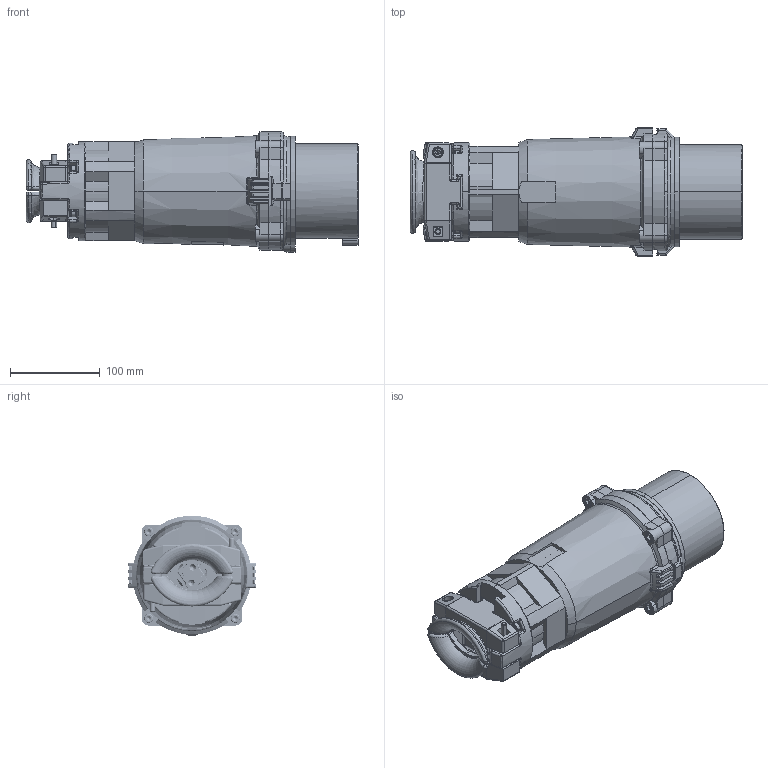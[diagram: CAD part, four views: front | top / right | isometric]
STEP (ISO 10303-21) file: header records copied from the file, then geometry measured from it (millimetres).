
FILE_DESCRIPTION((''),'2;1');
FILE_NAME('MC-S4_C-LINE_ASM','2019-08-22T09:46:39',('schlabachr'),('MENNEKES'),'CREO PARAMETRIC BY PTC INC, 2018260','CREO PARAMETRIC BY PTC INC, 2018260','');
FILE_SCHEMA(('AUTOMOTIVE_DESIGN { 1 0 10303 214 1 1 1 1 }'));
Length unit declared in the file: millimetre
Products named in the file (37): D_12778; SICHERUNGSSCHEIBE_SCHNORR_M5; D_12768; D_12959; O-RING_120_2X3_53; D_13698; D_13701; B_13701_ASM; D_13706; D_13699; SICHERUNGSSCHEIBE_SCHNORR_M6; D_13703; D_13700; SOCKET_HEAD_CAP_SCREW_DIN-R_S1_; D_13702; D_13705; 35512_FR_ZEICHNUNG0_ASM; D_12766; D_12756; SOCKET_SET_SCREW_CUP_POIN-35710; SOCKET_SET_SCREW_CUP_POIN-70426; D_13568; B_13567_ASM; DIN_7984_-_M6_X_12_TUFLOK_FLECK; D_12755; SOCKET_HEAD_CAP_SCREW_DIN-R_S_D; D_31719; D_12765; D_12751; D_03866; ZYL_SCHR_M_KL_KOPF_M4X8; B_12751_ASM; D_11694; D_12764; B_13541_ASM; B_12812_KLEIN_ASM; MC-S4_C-LINE_ASM
Assembly tree (69 placements, depth 5):
  MC-S4_C-LINE_ASM
    B_12812_KLEIN_ASM
      D_12778  x4
      SICHERUNGSSCHEIBE_SCHNORR_M5  x4
      D_12768
      D_12959
      O-RING_120_2X3_53
      B_13701_ASM
        D_13698  x4
        D_13701
      35512_FR_ZEICHNUNG0_ASM
        D_13706  x4
        D_13699
        SICHERUNGSSCHEIBE_SCHNORR_M6  x6
        D_13703
        D_13700  x2
        SOCKET_HEAD_CAP_SCREW_DIN-R_S1_  x2
        D_13702  x2
        D_13705
      B_13541_ASM
        D_12766
        D_12756
        SICHERUNGSSCHEIBE_SCHNORR_M5  x3
        B_13567_ASM  x4
          SOCKET_SET_SCREW_CUP_POIN-35710
          SOCKET_SET_SCREW_CUP_POIN-70426
          D_13568
        DIN_7984_-_M6_X_12_TUFLOK_FLECK
        D_12755  x3
        SOCKET_HEAD_CAP_SCREW_DIN-R_S_D  x3
        D_31719
        D_12765
        B_12751_ASM  x2
          D_12751
          D_03866
          ZYL_SCHR_M_KL_KOPF_M4X8
        D_11694
        D_12764
        SICHERUNGSSCHEIBE_SCHNORR_M6
Bounding box: 369 x 142.3 x 134 mm (x, y, z)
Volume: 1399771.4 mm3; surface area: 606996.3 mm2
Topology: 72 solids, 72 shells, 3676 faces, 9053 edges, 5541 vertices
Faces by surface type: plane 1491, cylinder 1102, torus 347, cone 290, extrusion 214, bspline 132, sphere 100
Entity records: 119047 total; most frequent: CARTESIAN_POINT 38914, ORIENTED_EDGE 12932, DIRECTION 12840, EDGE_CURVE 6466, AXIS2_PLACEMENT_3D 4801, PRESENTATION_STYLE_ASSIGNMENT 4288, STYLED_ITEM 4198, CURVE_STYLE 4171
